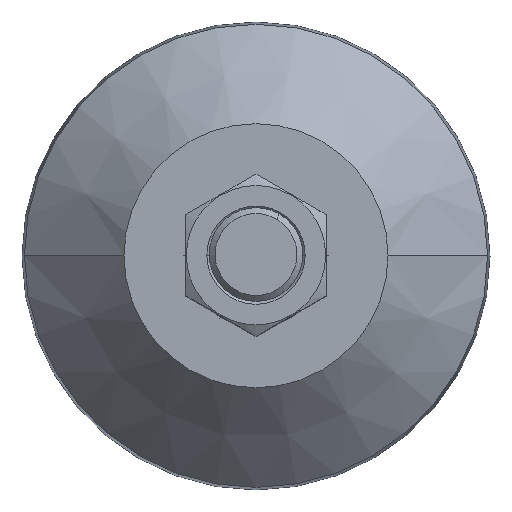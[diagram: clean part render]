
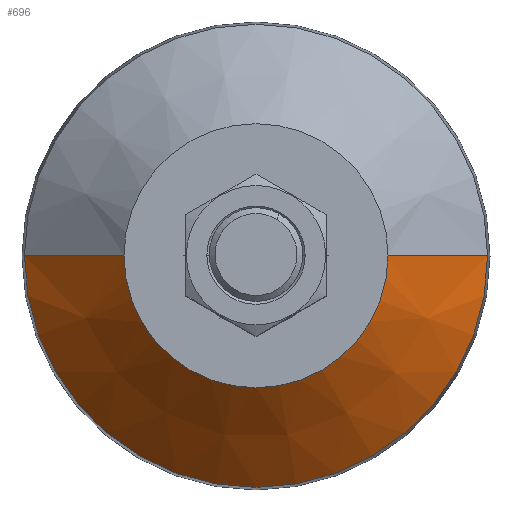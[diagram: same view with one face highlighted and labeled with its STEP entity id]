
A CAD part, top view. The second image highlights one B-rep face of the part: STEP entity #696.
In plain terms, the highlighted conical face has half-angle 45 degrees and reference radius 39.563 mm.
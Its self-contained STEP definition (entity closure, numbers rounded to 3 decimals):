
#318 = CARTESIAN_POINT ( 'NONE',  ( 0., 0., 12.5 ) ) ;
#324 = DIRECTION ( 'NONE',  ( 0., 0., -1. ) ) ;
#330 = DIRECTION ( 'NONE',  ( -1., 0., 0. ) ) ;
#696 = ADVANCED_FACE ( 'NONE', ( #2401 ), #2394, .T. ) ;
#886 = EDGE_CURVE ( 'NONE', #1783, #1789, #1380, .T. ) ;
#888 = EDGE_CURVE ( 'NONE', #1784, #1778, #1385, .T. ) ;
#903 = EDGE_CURVE ( 'NONE', #1778, #1789, #1405, .T. ) ;
#904 = EDGE_CURVE ( 'NONE', #1784, #1783, #1406, .T. ) ;
#1196 = CARTESIAN_POINT ( 'NONE',  ( -39.563, 0., 12.5 ) ) ;
#1202 = CARTESIAN_POINT ( 'NONE',  ( 22.563, 0., 29.5 ) ) ;
#1203 = CARTESIAN_POINT ( 'NONE',  ( -22.563, 0., 29.5 ) ) ;
#1208 = CARTESIAN_POINT ( 'NONE',  ( 39.563, 0., 12.5 ) ) ;
#1380 = LINE ( 'NONE', #2993, #1384 ) ;
#1384 = VECTOR ( 'NONE', #3041, 1000. ) ;
#1385 = LINE ( 'NONE', #2957, #1387 ) ;
#1387 = VECTOR ( 'NONE', #3057, 1000. ) ;
#1405 = CIRCLE ( 'NONE', #3232, 39.563 ) ;
#1406 = CIRCLE ( 'NONE', #3233, 22.563 ) ;
#1675 = ORIENTED_EDGE ( 'NONE', *, *, #903, .T. ) ;
#1676 = ORIENTED_EDGE ( 'NONE', *, *, #888, .T. ) ;
#1677 = ORIENTED_EDGE ( 'NONE', *, *, #904, .F. ) ;
#1678 = ORIENTED_EDGE ( 'NONE', *, *, #886, .F. ) ;
#1778 = VERTEX_POINT ( 'NONE', #1196 ) ;
#1783 = VERTEX_POINT ( 'NONE', #1202 ) ;
#1784 = VERTEX_POINT ( 'NONE', #1203 ) ;
#1789 = VERTEX_POINT ( 'NONE', #1208 ) ;
#2287 = DIRECTION ( 'NONE',  ( -1., 0., 0. ) ) ;
#2288 = DIRECTION ( 'NONE',  ( 0., 0., 1. ) ) ;
#2291 = CARTESIAN_POINT ( 'NONE',  ( 0., 0., 29.5 ) ) ;
#2294 = DIRECTION ( 'NONE',  ( 1., 0., 0. ) ) ;
#2295 = DIRECTION ( 'NONE',  ( 0., 0., 1. ) ) ;
#2296 = CARTESIAN_POINT ( 'NONE',  ( 0., 0., 12.5 ) ) ;
#2394 = CONICAL_SURFACE ( 'NONE', #3179, 39.563, 0.785 ) ;
#2401 = FACE_OUTER_BOUND ( 'NONE', #2897, .T. ) ;
#2897 = EDGE_LOOP ( 'NONE', ( #1678, #1677, #1676, #1675 ) ) ;
#2957 = CARTESIAN_POINT ( 'NONE',  ( -39.563, 0., 12.5 ) ) ;
#2993 = CARTESIAN_POINT ( 'NONE',  ( 39.563, 0., 12.5 ) ) ;
#3041 = DIRECTION ( 'NONE',  ( 0.707, 0., -0.707 ) ) ;
#3057 = DIRECTION ( 'NONE',  ( -0.707, 0., -0.707 ) ) ;
#3179 = AXIS2_PLACEMENT_3D ( 'NONE', #318, #324, #330 ) ;
#3232 = AXIS2_PLACEMENT_3D ( 'NONE', #2296, #2295, #2294 ) ;
#3233 = AXIS2_PLACEMENT_3D ( 'NONE', #2291, #2288, #2287 ) ;
